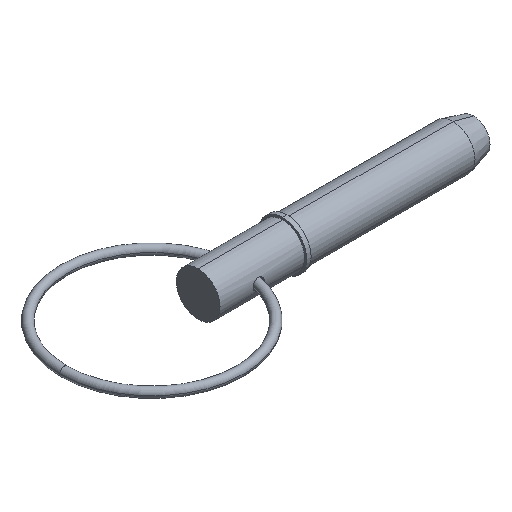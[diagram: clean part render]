
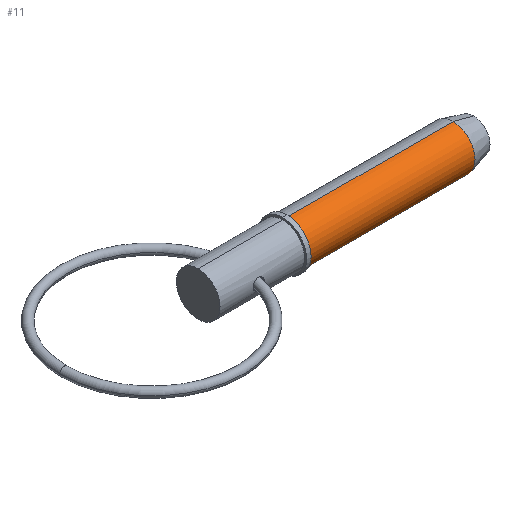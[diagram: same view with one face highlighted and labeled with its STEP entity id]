
A CAD part, isometric view. The second image highlights one B-rep face of the part: STEP entity #11.
In plain terms, the highlighted cylindrical face has radius 6.35 mm (diameter 12.7 mm), a partial arc.
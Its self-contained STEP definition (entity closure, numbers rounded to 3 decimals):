
#11 = ADVANCED_FACE ( 'NONE', ( #24 ), #667, .T. ) ;
#24 = FACE_OUTER_BOUND ( 'NONE', #476, .T. ) ;
#27 = CARTESIAN_POINT ( 'NONE',  ( 73.755, 0., 6.35 ) ) ;
#40 = CARTESIAN_POINT ( 'NONE',  ( 0., 0., 0. ) ) ;
#229 = ORIENTED_EDGE ( 'NONE', *, *, #548, .T. ) ;
#291 = DIRECTION ( 'NONE',  ( 1., 0., 0. ) ) ;
#355 = VECTOR ( 'NONE', #291, 1000. ) ;
#365 = VERTEX_POINT ( 'NONE', #27 ) ;
#376 = EDGE_CURVE ( 'NONE', #581, #365, #523, .T. ) ;
#395 = DIRECTION ( 'NONE',  ( 0., 0., -1. ) ) ;
#408 = ORIENTED_EDGE ( 'NONE', *, *, #376, .F. ) ;
#445 = DIRECTION ( 'NONE',  ( 0., 0., -1. ) ) ;
#447 = VERTEX_POINT ( 'NONE', #531 ) ;
#467 = CARTESIAN_POINT ( 'NONE',  ( 25.7, 0., 6.35 ) ) ;
#476 = EDGE_LOOP ( 'NONE', ( #408, #676, #229, #1050 ) ) ;
#522 = VECTOR ( 'NONE', #930, 1000. ) ;
#523 = LINE ( 'NONE', #670, #522 ) ;
#531 = CARTESIAN_POINT ( 'NONE',  ( 25.7, 0., -6.35 ) ) ;
#537 = CARTESIAN_POINT ( 'NONE',  ( 73.755, 0., 0. ) ) ;
#544 = AXIS2_PLACEMENT_3D ( 'NONE', #609, #938, #395 ) ;
#548 = EDGE_CURVE ( 'NONE', #447, #920, #623, .T. ) ;
#559 = EDGE_CURVE ( 'NONE', #365, #920, #582, .T. ) ;
#581 = VERTEX_POINT ( 'NONE', #467 ) ;
#582 = CIRCLE ( 'NONE', #681, 6.35 ) ;
#609 = CARTESIAN_POINT ( 'NONE',  ( 25.7, 0., 0. ) ) ;
#623 = LINE ( 'NONE', #871, #355 ) ;
#667 = CYLINDRICAL_SURFACE ( 'NONE', #937, 6.35 ) ;
#670 = CARTESIAN_POINT ( 'NONE',  ( 0., 0., 6.35 ) ) ;
#676 = ORIENTED_EDGE ( 'NONE', *, *, #771, .T. ) ;
#681 = AXIS2_PLACEMENT_3D ( 'NONE', #537, #853, #1033 ) ;
#771 = EDGE_CURVE ( 'NONE', #581, #447, #997, .T. ) ;
#831 = DIRECTION ( 'NONE',  ( 1., 0., 0. ) ) ;
#853 = DIRECTION ( 'NONE',  ( 1., 0., 0. ) ) ;
#871 = CARTESIAN_POINT ( 'NONE',  ( 0., 0., -6.35 ) ) ;
#920 = VERTEX_POINT ( 'NONE', #962 ) ;
#930 = DIRECTION ( 'NONE',  ( 1., 0., 0. ) ) ;
#937 = AXIS2_PLACEMENT_3D ( 'NONE', #40, #831, #445 ) ;
#938 = DIRECTION ( 'NONE',  ( 1., 0., 0. ) ) ;
#962 = CARTESIAN_POINT ( 'NONE',  ( 73.755, 0., -6.35 ) ) ;
#997 = CIRCLE ( 'NONE', #544, 6.35 ) ;
#1033 = DIRECTION ( 'NONE',  ( 0., 0., -1. ) ) ;
#1050 = ORIENTED_EDGE ( 'NONE', *, *, #559, .F. ) ;
